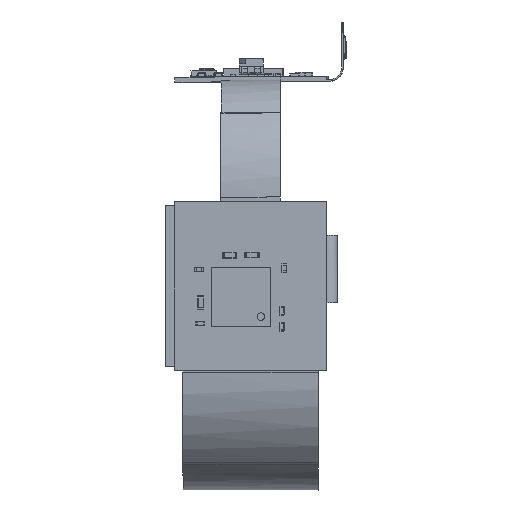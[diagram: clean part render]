
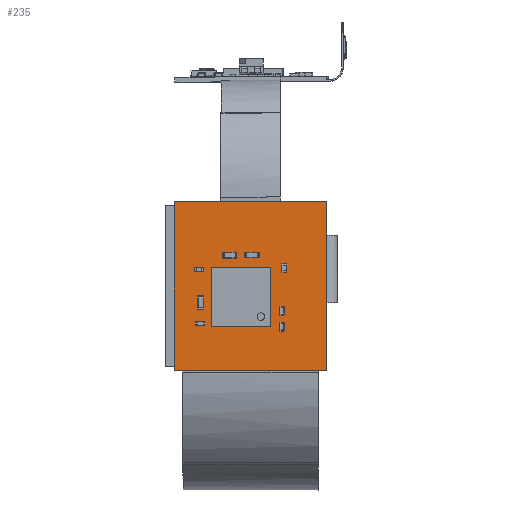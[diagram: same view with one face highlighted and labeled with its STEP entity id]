
A CAD part, top view. The second image highlights one B-rep face of the part: STEP entity #235.
In plain terms, the highlighted planar face has unit normal (0, 0, 1).
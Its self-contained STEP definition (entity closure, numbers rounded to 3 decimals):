
#210 = VERTEX_POINT('',#211);
#211 = CARTESIAN_POINT('',(81.565,187.459,
    0.));
#217 = EDGE_CURVE('',#218,#210,#220,.T.);
#218 = VERTEX_POINT('',#219);
#219 = CARTESIAN_POINT('',(99.565,187.459,
    0.));
#220 = LINE('',#221,#222);
#221 = CARTESIAN_POINT('',(99.565,187.459,
    0.));
#222 = VECTOR('',#223,1.);
#223 = DIRECTION('',(-1.,0.,0.));
#235 = ADVANCED_FACE('',(#236),#261,.T.);
#236 = FACE_BOUND('',#237,.T.);
#237 = EDGE_LOOP('',(#238,#239,#247,#255));
#238 = ORIENTED_EDGE('',*,*,#217,.T.);
#239 = ORIENTED_EDGE('',*,*,#240,.T.);
#240 = EDGE_CURVE('',#210,#241,#243,.T.);
#241 = VERTEX_POINT('',#242);
#242 = CARTESIAN_POINT('',(81.565,167.459,
    0.));
#243 = LINE('',#244,#245);
#244 = CARTESIAN_POINT('',(81.565,187.459,
    0.));
#245 = VECTOR('',#246,1.);
#246 = DIRECTION('',(0.,-1.,0.));
#247 = ORIENTED_EDGE('',*,*,#248,.T.);
#248 = EDGE_CURVE('',#241,#249,#251,.T.);
#249 = VERTEX_POINT('',#250);
#250 = CARTESIAN_POINT('',(99.565,167.459,
    0.));
#251 = LINE('',#252,#253);
#252 = CARTESIAN_POINT('',(81.565,167.459,
    0.));
#253 = VECTOR('',#254,1.);
#254 = DIRECTION('',(1.,0.,0.));
#255 = ORIENTED_EDGE('',*,*,#256,.T.);
#256 = EDGE_CURVE('',#249,#218,#257,.T.);
#257 = LINE('',#258,#259);
#258 = CARTESIAN_POINT('',(99.565,167.459,
    0.));
#259 = VECTOR('',#260,1.);
#260 = DIRECTION('',(0.,1.,0.));
#261 = PLANE('',#262);
#262 = AXIS2_PLACEMENT_3D('',#263,#264,#265);
#263 = CARTESIAN_POINT('',(99.565,187.459,
    0.));
#264 = DIRECTION('',(0.,0.,1.));
#265 = DIRECTION('',(1.,0.,0.));
